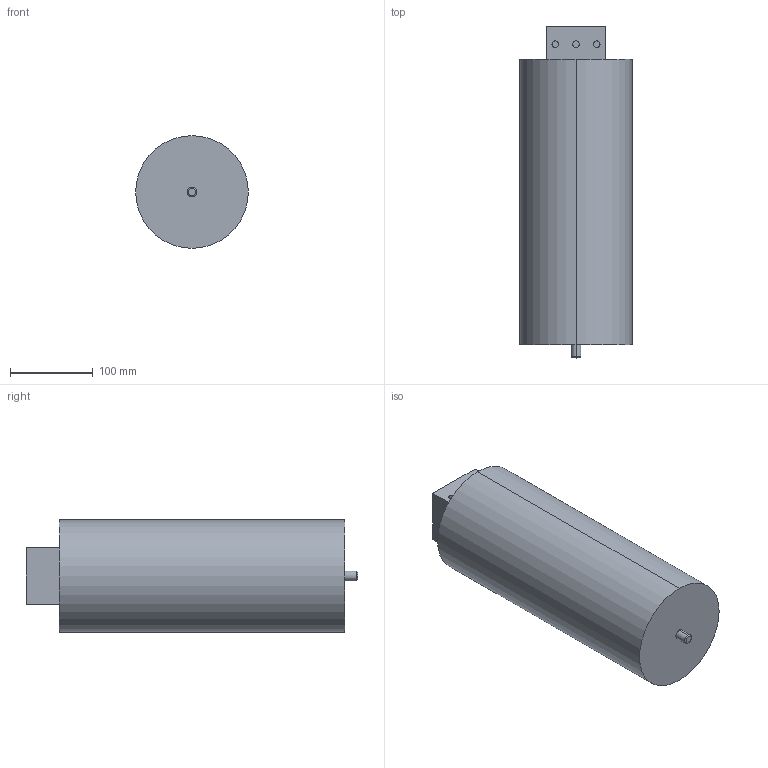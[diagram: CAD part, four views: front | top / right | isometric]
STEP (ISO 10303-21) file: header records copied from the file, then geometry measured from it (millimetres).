
FILE_DESCRIPTION (( 'STEP AP214' ), '1' );
FILE_NAME ('Êîíäåíñàòîð êîñèíóñíûé ÊÏÑ-0,40-50-3.STEP', '2018-08-23T07:51:48', ( '' ), ( '' ), 'SwSTEP 2.0', 'SolidWorks 2017', '' );
FILE_SCHEMA (( 'AUTOMOTIVE_DESIGN' ));
Length unit declared in the file: millimetre
Products named in the file (1): Êîíäåíñàòîð êîñèíóñíûé ÊÏÑ-0,40-50-3
Bounding box: 136 x 401 x 136 mm (x, y, z)
Volume: 5205560.7 mm3; surface area: 190109.1 mm2
Topology: 1 solids, 1 shells, 32 faces, 64 edges, 42 vertices
Faces by surface type: cylinder 16, plane 14, cone 2
Entity records: 957 total; most frequent: DIRECTION 164, CARTESIAN_POINT 139, ORIENTED_EDGE 128, AXIS2_PLACEMENT_3D 67, EDGE_CURVE 64, VERTEX_POINT 42, EDGE_LOOP 40, CIRCLE 34
